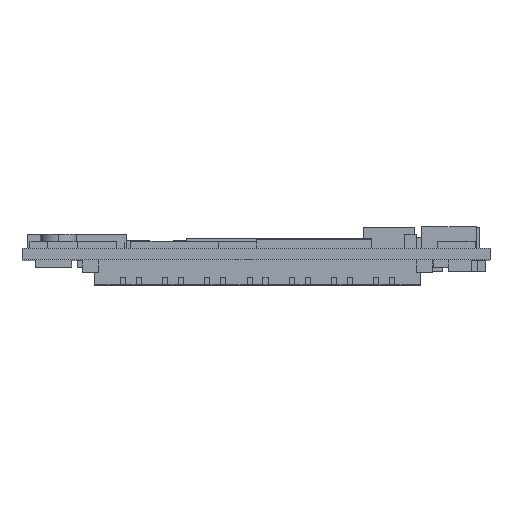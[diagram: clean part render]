
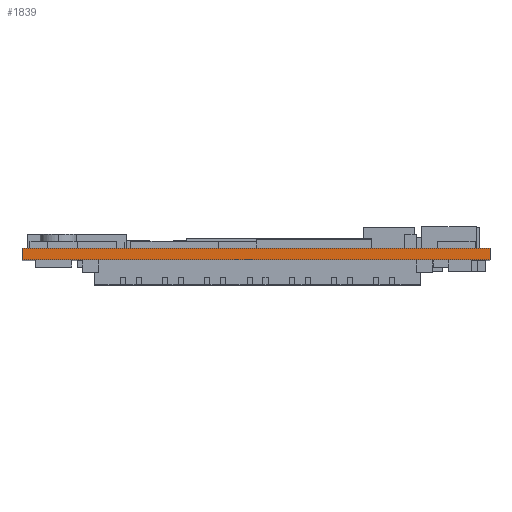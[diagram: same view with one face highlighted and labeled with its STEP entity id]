
A CAD part, top view. The second image highlights one B-rep face of the part: STEP entity #1839.
In plain terms, the highlighted planar face has unit normal (0, 0, 1).
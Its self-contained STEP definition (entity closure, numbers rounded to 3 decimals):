
#161 = EDGE_CURVE ( 'NONE', #10471, #10378, #1422, .T. ) ;
#265 = EDGE_CURVE ( 'NONE', #10409, #10471, #1738, .T. ) ;
#267 = EDGE_CURVE ( 'NONE', #10407, #10378, #1746, .T. ) ;
#931 = EDGE_LOOP ( 'NONE', ( #10595, #10596, #10597, #10598 ) ) ;
#1422 = LINE ( 'NONE', #1428, #7299 ) ;
#1428 = CARTESIAN_POINT ( 'NONE',  ( -32.5, 0., 37.5 ) ) ;
#1430 = DIRECTION ( 'NONE',  ( 1., 0., 0. ) ) ;
#1703 = CARTESIAN_POINT ( 'NONE',  ( -32.5, 1.6, 37.5 ) ) ;
#1738 = LINE ( 'NONE', #1703, #19348 ) ;
#1742 = DIRECTION ( 'NONE',  ( 0., -1., 0. ) ) ;
#1746 = LINE ( 'NONE', #1747, #19353 ) ;
#1747 = CARTESIAN_POINT ( 'NONE',  ( 32.5, 1.6, 37.5 ) ) ;
#1748 = DIRECTION ( 'NONE',  ( 0., -1., 0. ) ) ;
#1839 = ADVANCED_FACE ( 'NONE', ( #12349 ), #12342, .F. ) ;
#3217 = AXIS2_PLACEMENT_3D ( 'NONE', #12345, #12351, #12352 ) ;
#7299 = VECTOR ( 'NONE', #1430, 1000. ) ;
#10378 = VERTEX_POINT ( 'NONE', #13080 ) ;
#10407 = VERTEX_POINT ( 'NONE', #13109 ) ;
#10409 = VERTEX_POINT ( 'NONE', #13111 ) ;
#10471 = VERTEX_POINT ( 'NONE', #13173 ) ;
#10595 = ORIENTED_EDGE ( 'NONE', *, *, #161, .T. ) ;
#10596 = ORIENTED_EDGE ( 'NONE', *, *, #267, .F. ) ;
#10597 = ORIENTED_EDGE ( 'NONE', *, *, #17543, .F. ) ;
#10598 = ORIENTED_EDGE ( 'NONE', *, *, #265, .T. ) ;
#12342 = PLANE ( 'NONE',  #3217 ) ;
#12345 = CARTESIAN_POINT ( 'NONE',  ( -32.5, 1.6, 37.5 ) ) ;
#12349 = FACE_OUTER_BOUND ( 'NONE', #931, .T. ) ;
#12351 = DIRECTION ( 'NONE',  ( 0., 0., -1. ) ) ;
#12352 = DIRECTION ( 'NONE',  ( -1., 0., 0. ) ) ;
#13080 = CARTESIAN_POINT ( 'NONE',  ( 32.5, 0., 37.5 ) ) ;
#13109 = CARTESIAN_POINT ( 'NONE',  ( 32.5, 1.6, 37.5 ) ) ;
#13111 = CARTESIAN_POINT ( 'NONE',  ( -32.5, 1.6, 37.5 ) ) ;
#13173 = CARTESIAN_POINT ( 'NONE',  ( -32.5, 0., 37.5 ) ) ;
#16082 = LINE ( 'NONE', #16234, #17118 ) ;
#16234 = CARTESIAN_POINT ( 'NONE',  ( -32.5, 1.6, 37.5 ) ) ;
#16235 = DIRECTION ( 'NONE',  ( 1., 0., 0. ) ) ;
#17118 = VECTOR ( 'NONE', #16235, 1000. ) ;
#17543 = EDGE_CURVE ( 'NONE', #10409, #10407, #16082, .T. ) ;
#19348 = VECTOR ( 'NONE', #1742, 1000. ) ;
#19353 = VECTOR ( 'NONE', #1748, 1000. ) ;
